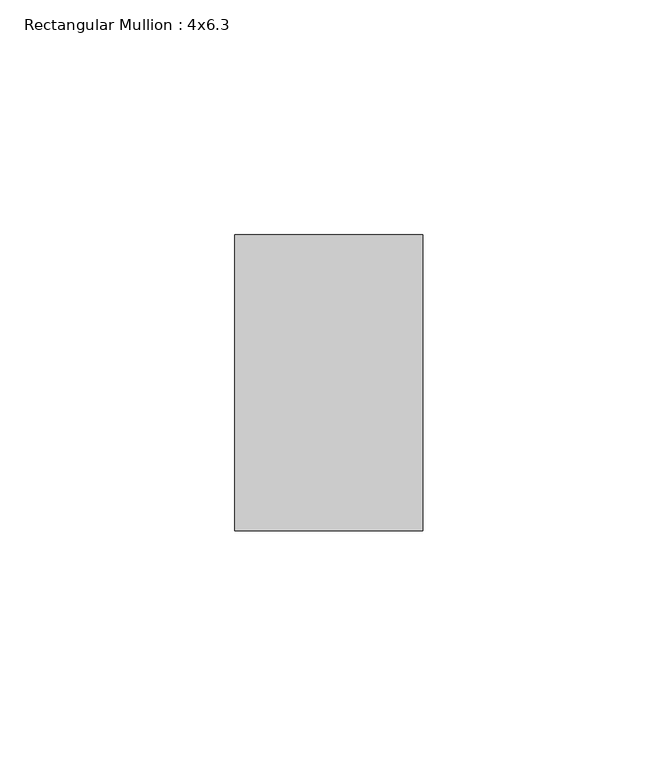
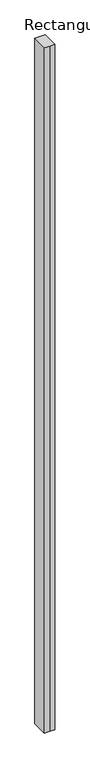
"""IFC4 building model written with IfcOpenShell, lengths in millimetres: member geometry, Rectangular Mullion : 4x6.3."""

from ifc_helpers import new_model, si_unit, frame, origin, place, context, project, spatial, polyline, outline, extrude, source, transform, mapped, element, save


def rectangular_mullion_4x6_3_e6506ea4(model_context):
    return source(origin(), model_context, "Body", "SweptSolid", [
        extrude(outline(polyline([(-20.0, 20.0), (-20.0, 83.0), (20.0, 83.0), (20.0, 20.0), (0.0, 20.0), (-20.0, 20.0)])), frame((0.0, 0.0, -2788.1777383), z_axis=(0.0, 0.0, 1.0), x_axis=(1.0, 0.0, 0.0)), (0.0, 0.0, 1.0), 2788.1777383),
    ])


if __name__ == "__main__":
    model = new_model("IFC4")
    model_context = context("Model", 3, world=origin())
    ifc_project = project(units=[si_unit("LENGTHUNIT", "METRE", prefix="MILLI")], contexts=[model_context])
    site = spatial("IfcSite", under=ifc_project)
    building = spatial("IfcBuilding", under=site)
    placement = place(None, origin())
    rectangular_mullion_4x6_3_shape = rectangular_mullion_4x6_3_e6506ea4(model_context)
    element("IfcMember", 1, ObjectType="Rectangular Mullion : 4x6.3", at=placement, inside=building, context=model_context, shape_type="MappedRepresentation", body=[
        mapped(rectangular_mullion_4x6_3_shape, transform((0.0, 0.0, 0.0), x_axis=(1.0, 0.0, 0.0), y_axis=(0.0, 1.0, 0.0), z_axis=(0.0, 0.0, 1.0))),
    ])
    save(model, "model.ifc")
